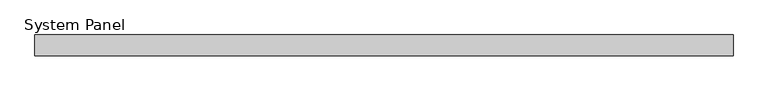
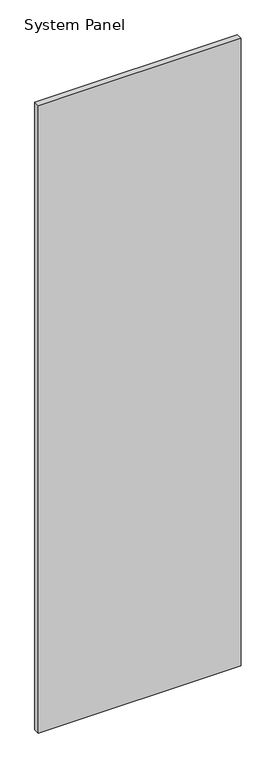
"""IFC4 building model written with IfcOpenShell, lengths in millimetres: plate geometry, System Panel : Panel_Glazed_Generic Showcase_30mm."""

from ifc_helpers import new_model, si_unit, origin, origin_with_axes, place, context, project, spatial, polyline, outline, extrude, source, transform, mapped, element, save


def system_panel_e7bdd35e(model_context):
    return source(origin(), model_context, "Body", "SweptSolid", [
        extrude(outline(polyline([(505.0, -30.0), (-505.0, -30.0), (-505.0, 0.0), (505.0, 0.0), (505.0, -30.0)])), origin_with_axes(), (0.0, 0.0, 1.0), 3300.0),
    ])


if __name__ == "__main__":
    model = new_model("IFC4")
    model_context = context("Model", 3, world=origin())
    ifc_project = project(units=[si_unit("LENGTHUNIT", "METRE", prefix="MILLI")], contexts=[model_context])
    site = spatial("IfcSite", under=ifc_project)
    building = spatial("IfcBuilding", under=site)
    placement = place(None, origin())
    system_panel_shape = system_panel_e7bdd35e(model_context)
    element("IfcPlate", 1, ObjectType="System Panel : Panel_Glazed_Generic Showcase_30mm", at=placement, inside=building, context=model_context, shape_type="MappedRepresentation", body=[
        mapped(system_panel_shape, transform((0.0, 0.0, 0.0), x_axis=(1.0, 0.0, 0.0), y_axis=(0.0, 1.0, 0.0), z_axis=(0.0, 0.0, 1.0))),
    ])
    save(model, "model.ifc")
